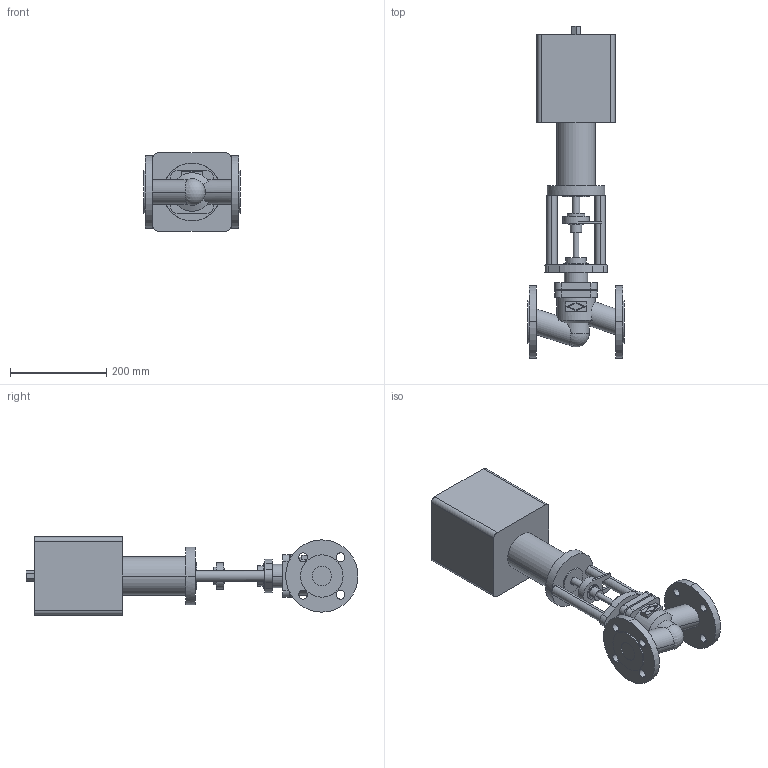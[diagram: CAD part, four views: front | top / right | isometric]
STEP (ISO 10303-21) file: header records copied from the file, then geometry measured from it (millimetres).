
FILE_DESCRIPTION( ( '' ), '1' );
FILE_NAME( 'F:/DE-SHS/TB/OR/04-Sonstiges/daten/files_3d/440-FR2.2/440-PN40-FR2_2/c000004540.stp', '2014-11-06T10:25:54', ( '' ), ( '' ), ' ', ' ', ' ' );
FILE_SCHEMA( ( 'CONFIG_CONTROL_DESIGN' ) );
Length unit declared in the file: millimetre
Products named in the file (2): 1; 2
Bounding box: 200 x 689 x 162 mm (x, y, z)
Volume: 7338148.6 mm3; surface area: 427155.9 mm2
Topology: 2 solids, 2 shells, 162 faces, 395 edges, 261 vertices
Faces by surface type: cylinder 82, plane 77, cone 2, sphere 1
Entity records: 5385 total; most frequent: CARTESIAN_POINT 1302, DIRECTION 883, ORIENTED_EDGE 786, EDGE_CURVE 393, AXIS2_PLACEMENT_3D 340, VERTEX_POINT 261, EDGE_LOOP 204, LINE 203
